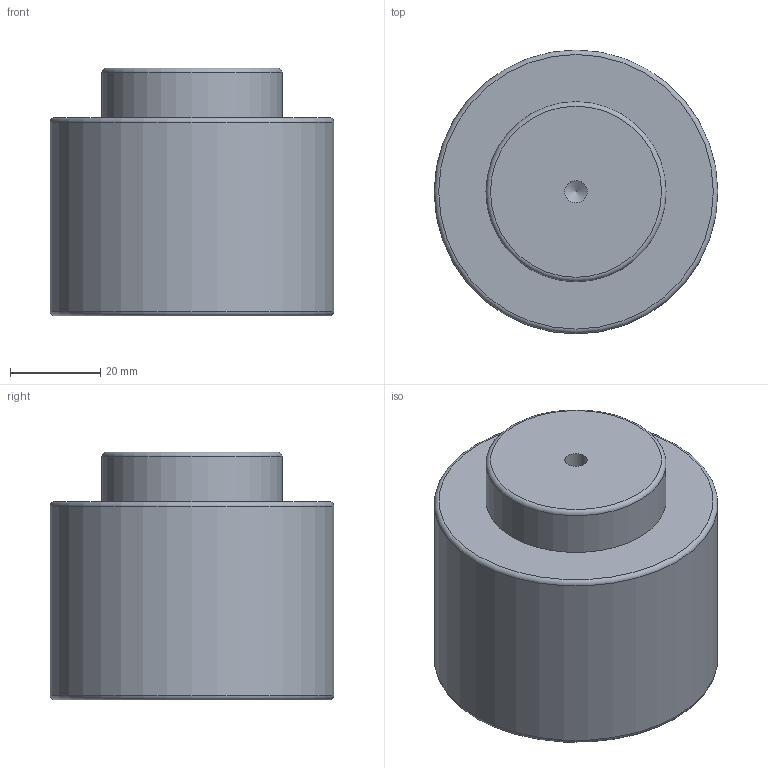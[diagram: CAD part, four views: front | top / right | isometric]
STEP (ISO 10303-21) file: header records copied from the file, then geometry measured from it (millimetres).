
FILE_DESCRIPTION(/* description */ (''),/* implementation_level */ '2;1');
FILE_NAME(/* name */ 'NV5-SMLX.63x10.stp',/* time_stamp */ '2018-08-31T16:08:32+02:00',/* author */ (''),/* organization */ (''),/* preprocessor_version */ 'ST-DEVELOPER v16',/* originating_system */ 'SIEMENS PLM Software NX 10.0',/* authorisation */ '');
FILE_SCHEMA (('AUTOMOTIVE_DESIGN { 1 0 10303 214 3 1 1 1 }'));
Length unit declared in the file: millimetre
Products named in the file (1): NV5-SMLX.63x10
Bounding box: 63 x 63 x 55 mm (x, y, z)
Volume: 149461.8 mm3; surface area: 16819.7 mm2
Topology: 1 solids, 1 shells, 12 faces, 24 edges, 15 vertices
Faces by surface type: cylinder 4, torus 3, plane 3, cone 2
Full cylindrical faces by diameter (mm): 5 x1, 8.5 x1, 40 x1, 63 x1
Entity records: 266 total; most frequent: DIRECTION 48, CARTESIAN_POINT 37, FACE_BOUND 24, AXIS2_PLACEMENT_3D 24, EDGE_LOOP 22, ORIENTED_EDGE 22, VERTEX_POINT 13, ADVANCED_FACE 12
